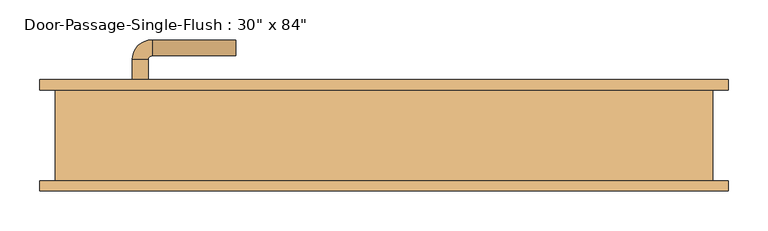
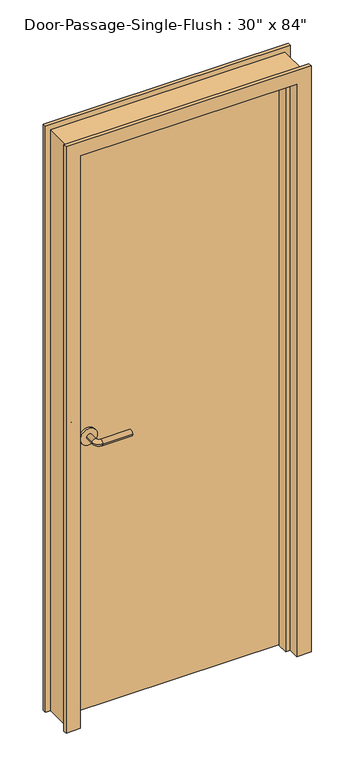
"""IFC4 building model written with IfcOpenShell, lengths in millimetres: door geometry."""

from ifc_helpers import new_model, si_unit, point, frame, frame_2d, origin, origin_with_axes, place, context, project, spatial, polyline, circle_curve, ellipse_curve, trimmed, segment, composite_curve, outline, extrude, faceted_brep, source, transform, mapped, element, save
from ifc_brep_helpers import plane_surface, cylinder_surface, revolved_surface, advanced_brep


def door_1d3810e4(model_context):
    return source(origin(), model_context, "Body", "SolidModel", [
        advanced_brep(
        [(-315.990625, 11.05, 1016.0), (-295.990625, 11.05, 1016.0), (-295.990625, -18.95, 1016.0), (-315.990625, -18.95, 1016.0), (-290.990625, -23.95, 1016.0), (-290.990625, -43.95, 1016.0), (-185.990625, -43.95, 1016.0), (-185.990625, -23.95, 1016.0)],
        [
            (0, 1, circle_curve(frame((-305.990625, 11.05, 1016.0), z_axis=(0.0, 1.0, 0.0), x_axis=(1.0, 0.0, 0.0)), 10.0)),
            (1, 0, circle_curve(frame((-305.990625, 11.05, 1016.0), z_axis=(0.0, 1.0, 0.0), x_axis=(1.0, 0.0, 0.0)), 10.0)),
            (1, 2),
            (2, 3, circle_curve(frame((-305.990625, -18.95, 1016.0), z_axis=(0.0, 1.0, 0.0), x_axis=(1.0, 0.0, 0.0)), 10.0)),
            (3, 0),
            (3, 2, circle_curve(frame((-305.990625, -18.95, 1016.0), z_axis=(0.0, 1.0, 0.0), x_axis=(1.0, 0.0, 0.0)), 10.0)),
            (4, 5, circle_curve(frame((-290.990625, -33.95, 1016.0), z_axis=(-1.0, 0.0, 0.0), x_axis=(0.0, 1.0, 0.0)), 10.0)),
            (5, 3, circle_curve(frame((-290.990625, -18.95, 1016.0), z_axis=(0.0, 0.0, -1.0), x_axis=(-1.0, 0.0, 0.0)), 25.0)),
            (2, 4, circle_curve(frame((-290.990625, -18.95, 1016.0), z_axis=(0.0, 0.0, 1.0), x_axis=(-1.0, 0.0, 0.0)), 5.0)),
            (5, 4, circle_curve(frame((-290.990625, -33.95, 1016.0), z_axis=(-1.0, 0.0, 0.0), x_axis=(0.0, 1.0, 0.0)), 10.0)),
            (6, 7, circle_curve(frame((-185.990625, -33.95, 1016.0), z_axis=(1.0, 0.0, 0.0), x_axis=(0.0, 1.0, 0.0)), 10.0)),
            (7, 6, circle_curve(frame((-185.990625, -33.95, 1016.0), z_axis=(1.0, 0.0, 0.0), x_axis=(0.0, 1.0, 0.0)), 10.0)),
            (4, 7),
            (6, 5),
        ],
        [
            plane_surface(frame((-305.990625, 11.05, 1016.0), z_axis=(0.0, 1.0, 0.0), x_axis=(0.0, 0.0, 1.0))),
            cylinder_surface(frame((-305.990625, 11.05, 1016.0), z_axis=(0.0, 1.0, 0.0), x_axis=(1.0, 0.0, 0.0)), 10.0),
            revolved_surface(trimmed(ellipse_curve(frame((-305.990625, -18.95, 1016.0), z_axis=(0.0, -1.0, 0.0), x_axis=(1.0, 0.0, 0.0)), 10.0, 10.0), [point((-315.990625, -18.95, 1016.0))], [point((-295.990625, -18.95, 1016.0))], True, "CARTESIAN"), (-290.990625, -18.95, 1016.0), (0.0, 0.0, -1.0)),
            revolved_surface(trimmed(ellipse_curve(frame((-305.990625, -18.95, 1016.0), z_axis=(0.0, -1.0, 0.0), x_axis=(1.0, 0.0, 0.0)), 10.0, 10.0), [point((-295.990625, -18.95, 1016.0))], [point((-315.990625, -18.95, 1016.0))], True, "CARTESIAN"), (-290.990625, -18.95, 1016.0), (0.0, 0.0, -1.0)),
            plane_surface(frame((-185.990625, -33.95, 1016.0), z_axis=(1.0, 0.0, 0.0), x_axis=(0.0, 0.0, 1.0))),
            cylinder_surface(frame((-290.990625, -33.95, 1016.0), z_axis=(-1.0, 0.0, 0.0), x_axis=(0.0, 1.0, 0.0)), 10.0),
        ],
        [
            (0, [[1, 2]]),
            (1, [[3, 4, 5, -2]]),
            (1, [[-5, 6, -3, -1]]),
            (2, [[7, 8, -4, 9]]),
            (3, [[10, -9, -6, -8]]),
            (4, [[11, 12]]),
            (5, [[13, -11, 14, -7]]),
            (5, [[-14, -12, -13, -10]]),
        ],
    ),
        extrude(outline(composite_curve([segment(trimmed(circle_curve(frame_2d((1016.0, -308.490625)), 30.0), [point((1016.0, -338.490625))], [point((1016.0, -278.490625))], False, "CARTESIAN"), True, "CONTINUOUS"), segment(trimmed(circle_curve(frame_2d((1016.0, -308.490625)), 30.0), [point((1016.0, -278.490625))], [point((1016.0, -338.490625))], False, "CARTESIAN"), True, "CONTINUOUS")], self_intersect=False)), frame((0.0, 11.05, 0.0), z_axis=(0.0, 1.0, 0.0), x_axis=(0.0, 0.0, 1.0)), (0.0, 0.0, 1.0), 8.0),
        advanced_brep(
        [(-315.990625, 71.5, 1016.0), (-295.990625, 71.5, 1016.0), (-315.990625, 101.5, 1016.0), (-295.990625, 101.5, 1016.0), (-290.990625, 106.5, 1016.0), (-290.990625, 126.5, 1016.0), (-185.990625, 126.5, 1016.0), (-185.990625, 106.5, 1016.0)],
        [
            (0, 1, circle_curve(frame((-305.990625, 71.5, 1016.0), z_axis=(0.0, -1.0, 0.0), x_axis=(1.0, 0.0, 0.0)), 10.0)),
            (1, 0, circle_curve(frame((-305.990625, 71.5, 1016.0), z_axis=(0.0, -1.0, 0.0), x_axis=(1.0, 0.0, 0.0)), 10.0)),
            (0, 2),
            (2, 3, circle_curve(frame((-305.990625, 101.5, 1016.0), z_axis=(0.0, -1.0, 0.0), x_axis=(1.0, 0.0, 0.0)), 10.0)),
            (3, 1),
            (3, 2, circle_curve(frame((-305.990625, 101.5, 1016.0), z_axis=(0.0, -1.0, 0.0), x_axis=(1.0, 0.0, 0.0)), 10.0)),
            (4, 3, circle_curve(frame((-290.990625, 101.5, 1016.0), z_axis=(0.0, 0.0, 1.0), x_axis=(-1.0, 0.0, 0.0)), 5.0)),
            (2, 5, circle_curve(frame((-290.990625, 101.5, 1016.0), z_axis=(0.0, 0.0, -1.0), x_axis=(-1.0, 0.0, 0.0)), 25.0)),
            (5, 4, circle_curve(frame((-290.990625, 116.5, 1016.0), z_axis=(-1.0, 0.0, 0.0), x_axis=(0.0, -1.0, 0.0)), 10.0)),
            (4, 5, circle_curve(frame((-290.990625, 116.5, 1016.0), z_axis=(-1.0, 0.0, 0.0), x_axis=(0.0, -1.0, 0.0)), 10.0)),
            (6, 7, circle_curve(frame((-185.990625, 116.5, 1016.0), z_axis=(1.0, 0.0, 0.0), x_axis=(0.0, -1.0, 0.0)), 10.0)),
            (7, 6, circle_curve(frame((-185.990625, 116.5, 1016.0), z_axis=(1.0, 0.0, 0.0), x_axis=(0.0, -1.0, 0.0)), 10.0)),
            (5, 6),
            (7, 4),
        ],
        [
            plane_surface(frame((-305.990625, 71.5, 1016.0), z_axis=(0.0, -1.0, 0.0), x_axis=(0.0, 0.0, 1.0))),
            cylinder_surface(frame((-305.990625, 71.5, 1016.0), z_axis=(0.0, -1.0, 0.0), x_axis=(1.0, 0.0, 0.0)), 10.0),
            revolved_surface(trimmed(ellipse_curve(frame((-305.990625, 101.5, 1016.0), z_axis=(0.0, -1.0, 0.0), x_axis=(1.0, 0.0, 0.0)), 10.0, 10.0), [point((-315.990625, 101.5, 1016.0))], [point((-295.990625, 101.5, 1016.0))], True, "CARTESIAN"), (-290.990625, 101.5, 1016.0), (0.0, 0.0, -1.0)),
            revolved_surface(trimmed(ellipse_curve(frame((-305.990625, 101.5, 1016.0), z_axis=(0.0, -1.0, 0.0), x_axis=(1.0, 0.0, 0.0)), 10.0, 10.0), [point((-295.990625, 101.5, 1016.0))], [point((-315.990625, 101.5, 1016.0))], True, "CARTESIAN"), (-290.990625, 101.5, 1016.0), (0.0, 0.0, -1.0)),
            plane_surface(frame((-185.990625, 116.5, 1016.0), z_axis=(1.0, 0.0, 0.0), x_axis=(0.0, 0.0, 1.0))),
            cylinder_surface(frame((-290.990625, 116.5, 1016.0), z_axis=(-1.0, 0.0, 0.0), x_axis=(0.0, -1.0, 0.0)), 10.0),
        ],
        [
            (0, [[1, 2]]),
            (1, [[-1, 3, 4, 5]]),
            (1, [[-2, -5, 6, -3]]),
            (2, [[7, -4, 8, 9]]),
            (3, [[-8, -6, -7, 10]]),
            (4, [[11, 12]]),
            (5, [[-9, 13, -12, 14]]),
            (5, [[-10, -14, -11, -13]]),
        ],
    ),
        extrude(outline(composite_curve([segment(trimmed(circle_curve(frame_2d((1016.0, -308.490625)), 30.0), [point((1016.0, -338.490625))], [point((1016.0, -278.490625))], False, "CARTESIAN"), True, "CONTINUOUS"), segment(trimmed(circle_curve(frame_2d((1016.0, -308.490625)), 30.0), [point((1016.0, -278.490625))], [point((1016.0, -338.490625))], False, "CARTESIAN"), True, "CONTINUOUS")], self_intersect=False)), frame((0.0, 63.5, 0.0), z_axis=(0.0, 1.0, 0.0), x_axis=(0.0, 0.0, 1.0)), (0.0, 0.0, 1.0), 8.0),
        faceted_brep([(381.0, 76.2, 0.0), (431.8, 76.2, 0.0), (431.8, 63.5, 0.0), (412.75, 63.5, 0.0), (412.75, -50.8, 0.0), (431.8, -50.8, 0.0), (431.8, -63.5, 0.0), (381.0, -63.5, 0.0), (381.0, -23.8125, 0.0), (365.125, -23.8125, 0.0), (365.125, 14.2875, 0.0), (381.0, 14.2875, 0.0), (381.0, 76.2, 2133.6), (-381.0, 76.2, 2133.6), (-381.0, 76.2, 0.0), (-431.8, 76.2, 0.0), (-431.8, 76.2, 2184.4), (431.8, 76.2, 2184.4), (431.8, 63.5, 2184.4), (-431.8, 63.5, 2184.4), (-431.8, 63.5, 0.0), (-412.75, 63.5, 0.0), (-412.75, 63.5, 2165.35), (412.75, 63.5, 2165.35), (412.75, -50.8, 2165.35), (-412.75, -50.8, 2165.35), (-412.75, -50.8, 0.0), (-431.8, -50.8, 0.0), (-431.8, -50.8, 2184.4), (431.8, -50.8, 2184.4), (431.8, -63.5, 2184.4), (-431.8, -63.5, 2184.4), (-431.8, -63.5, 0.0), (-381.0, -63.5, 0.0), (-381.0, -63.5, 2133.6), (381.0, -63.5, 2133.6), (381.0, -23.8125, 2133.6), (-381.0, -23.8125, 2133.6), (-381.0, -23.8125, 0.0), (-365.125, -23.8125, 0.0), (-365.125, -23.8125, 2117.725), (365.125, -23.8125, 2117.725), (365.125, 14.2875, 2117.725), (-365.125, 14.2875, 2117.725), (-365.125, 14.2875, 0.0), (-381.0, 14.2875, 0.0), (-381.0, 14.2875, 2133.6), (381.0, 14.2875, 2133.6)], [[[0, 1, 2, 3, 4, 5, 6, 7, 8, 9, 10, 11]], [[1, 0, 12, 13, 14, 15, 16, 17]], [[2, 1, 17, 18]], [[3, 2, 18, 19, 20, 21, 22, 23]], [[4, 3, 23, 24]], [[5, 4, 24, 25, 26, 27, 28, 29]], [[6, 5, 29, 30]], [[7, 6, 30, 31, 32, 33, 34, 35]], [[8, 7, 35, 36]], [[9, 8, 36, 37, 38, 39, 40, 41]], [[10, 9, 41, 42]], [[11, 10, 42, 43, 44, 45, 46, 47]], [[0, 11, 47, 12]], [[18, 17, 16, 19]], [[24, 23, 22, 25]], [[30, 29, 28, 31]], [[36, 35, 34, 37]], [[42, 41, 40, 43]], [[12, 47, 46, 13]], [[14, 45, 44, 39, 38, 33, 32, 27, 26, 21, 20, 15]], [[19, 16, 15, 20]], [[25, 22, 21, 26]], [[31, 28, 27, 32]], [[37, 34, 33, 38]], [[43, 40, 39, 44]], [[13, 46, 45, 14]]]),
        extrude(outline(polyline([(381.0, 19.05), (-381.0, 19.05), (-381.0, 63.5), (381.0, 63.5), (381.0, 19.05)])), origin_with_axes(), (0.0, 0.0, 1.0), 2133.6),
    ])


if __name__ == "__main__":
    model = new_model("IFC4")
    model_context = context("Model", 3, world=origin())
    ifc_project = project(units=[si_unit("LENGTHUNIT", "METRE", prefix="MILLI")], contexts=[model_context])
    site = spatial("IfcSite", under=ifc_project)
    building = spatial("IfcBuilding", under=site)
    placement = place(None, origin())
    door_shape = door_1d3810e4(model_context)
    element("IfcDoor", 1, ObjectType="Door-Passage-Single-Flush : 30\" x 84\"", at=placement, inside=building, context=model_context, shape_type="MappedRepresentation", body=[
        mapped(door_shape, transform((0.0, 0.0, 0.0), x_axis=(1.0, 0.0, 0.0), y_axis=(0.0, 1.0, 0.0), z_axis=(0.0, 0.0, 1.0))),
    ])
    save(model, "model.ifc")
